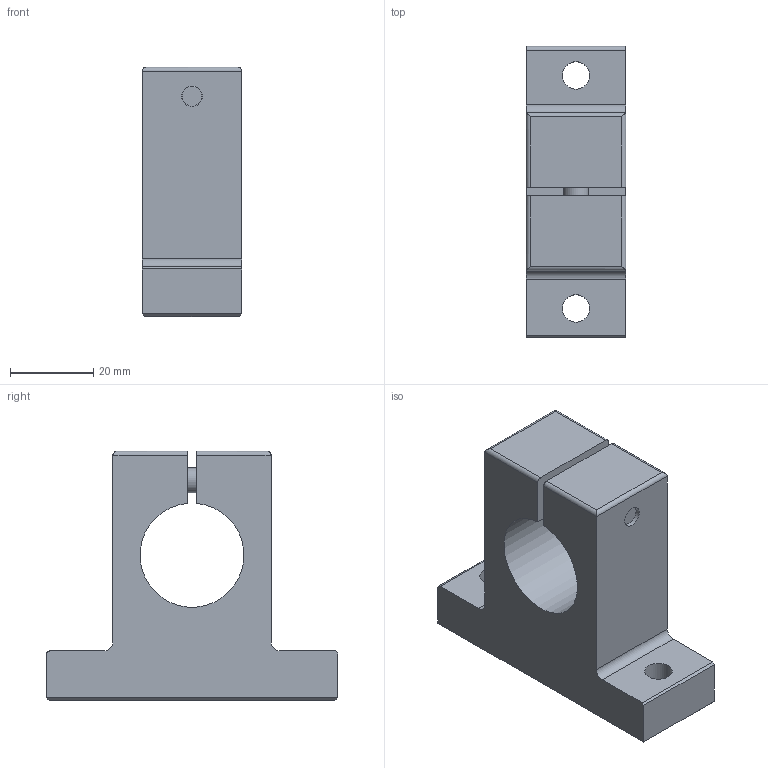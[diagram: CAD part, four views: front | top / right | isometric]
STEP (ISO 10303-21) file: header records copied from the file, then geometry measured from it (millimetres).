
FILE_DESCRIPTION((''),'2;1');
FILE_NAME('D:\製品 (図面)\カタログ用3D\シャフトブロック関連\STEP形式\SBA\SBA25.stp','2010-06-01T16:23:18',('Tsuchiya'),(''),'Autodesk Inventor 10','Autodesk Inventor 10','');
FILE_SCHEMA(('AUTOMOTIVE_DESIGN { 1 0 10303 214 1 1 1 1 }'));
Length unit declared in the file: millimetre
Products named in the file (1): SBA25
Bounding box: 24 x 70 x 60 mm (x, y, z)
Volume: 50394.4 mm3; surface area: 14019.9 mm2
Topology: 1 solids, 1 shells, 48 faces, 119 edges, 77 vertices
Faces by surface type: plane 27, cylinder 14, bspline 4, cone 2, torus 1
Full cylindrical faces by diameter (mm): 6 x1, 6.6 x2, 10 x1
Entity records: 1392 total; most frequent: CARTESIAN_POINT 291, DIRECTION 220, ORIENTED_EDGE 208, EDGE_CURVE 104, AXIS2_PLACEMENT_3D 77, VERTEX_POINT 72, EDGE_LOOP 68, VECTOR 66
